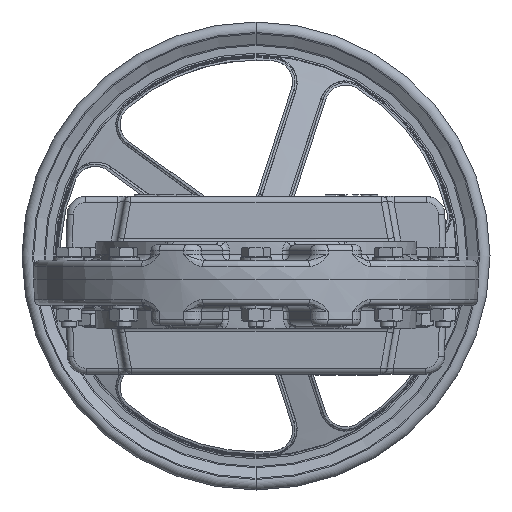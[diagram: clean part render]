
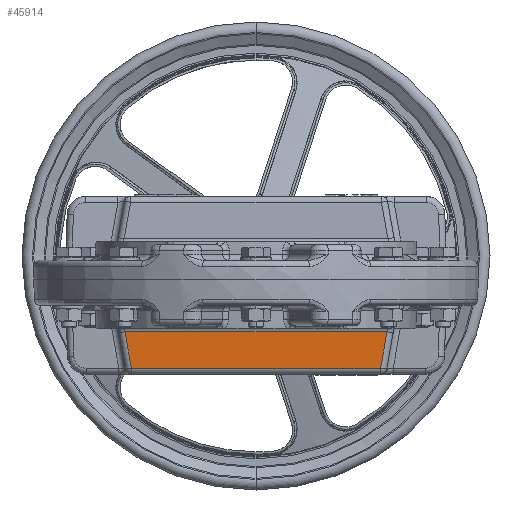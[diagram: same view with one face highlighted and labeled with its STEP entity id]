
A CAD part, front view. The second image highlights one B-rep face of the part: STEP entity #45914.
In plain terms, the highlighted planar face has unit normal (0, -0.999, -0.035).
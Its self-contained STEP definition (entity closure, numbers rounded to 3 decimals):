
#5155 = DIRECTION ( 'NONE',  ( 1., 0., 0. ) ) ;
#7053 = VERTEX_POINT ( 'NONE', #105401 ) ;
#7935 = DIRECTION ( 'NONE',  ( 0., -0.999, -0.035 ) ) ;
#20884 = VECTOR ( 'NONE', #75212, 1000. ) ;
#20987 = CARTESIAN_POINT ( 'NONE',  ( -79.326, 152.846, -60.31 ) ) ;
#22582 = VERTEX_POINT ( 'NONE', #61425 ) ;
#22898 = CARTESIAN_POINT ( 'NONE',  ( -193.999, 152.735, -57.14 ) ) ;
#23902 = VECTOR ( 'NONE', #70362, 1000. ) ;
#26163 = ORIENTED_EDGE ( 'NONE', *, *, #100530, .T. ) ;
#27509 = ORIENTED_EDGE ( 'NONE', *, *, #109048, .T. ) ;
#29980 = CARTESIAN_POINT ( 'NONE',  ( -83.99, 151.922, -33.86 ) ) ;
#33568 = PLANE ( 'NONE',  #113106 ) ;
#40182 = DIRECTION ( 'NONE',  ( -1., 0., 0. ) ) ;
#45914 = ADVANCED_FACE ( 'NONE', ( #97102 ), #33568, .T. ) ;
#47951 = LINE ( 'NONE', #69971, #23902 ) ;
#51883 = VERTEX_POINT ( 'NONE', #66433 ) ;
#52664 = VECTOR ( 'NONE', #5155, 1000. ) ;
#53566 = EDGE_LOOP ( 'NONE', ( #27509, #60061, #108349, #26163 ) ) ;
#58194 = LINE ( 'NONE', #94624, #106503 ) ;
#60061 = ORIENTED_EDGE ( 'NONE', *, *, #62630, .T. ) ;
#61059 = EDGE_CURVE ( 'NONE', #22582, #7053, #47951, .T. ) ;
#61425 = CARTESIAN_POINT ( 'NONE',  ( 79.885, 152.735, -57.14 ) ) ;
#62015 = CARTESIAN_POINT ( 'NONE',  ( -193.999, 152.87, -61. ) ) ;
#62630 = EDGE_CURVE ( 'NONE', #51883, #22582, #76903, .T. ) ;
#63777 = VERTEX_POINT ( 'NONE', #29980 ) ;
#66433 = CARTESIAN_POINT ( 'NONE',  ( -79.885, 152.735, -57.14 ) ) ;
#69971 = CARTESIAN_POINT ( 'NONE',  ( 84.792, 151.763, -29.31 ) ) ;
#70362 = DIRECTION ( 'NONE',  ( 0.174, -0.034, 0.984 ) ) ;
#71249 = DIRECTION ( 'NONE',  ( 0., 0.035, -0.999 ) ) ;
#75212 = DIRECTION ( 'NONE',  ( 0.174, 0.034, -0.984 ) ) ;
#76903 = LINE ( 'NONE', #22898, #52664 ) ;
#93166 = LINE ( 'NONE', #20987, #20884 ) ;
#94624 = CARTESIAN_POINT ( 'NONE',  ( -193.999, 151.922, -33.86 ) ) ;
#97102 = FACE_OUTER_BOUND ( 'NONE', #53566, .T. ) ;
#100530 = EDGE_CURVE ( 'NONE', #7053, #63777, #58194, .T. ) ;
#105401 = CARTESIAN_POINT ( 'NONE',  ( 83.99, 151.922, -33.86 ) ) ;
#106503 = VECTOR ( 'NONE', #40182, 1000. ) ;
#108349 = ORIENTED_EDGE ( 'NONE', *, *, #61059, .T. ) ;
#109048 = EDGE_CURVE ( 'NONE', #63777, #51883, #93166, .T. ) ;
#113106 = AXIS2_PLACEMENT_3D ( 'NONE', #62015, #7935, #71249 ) ;
